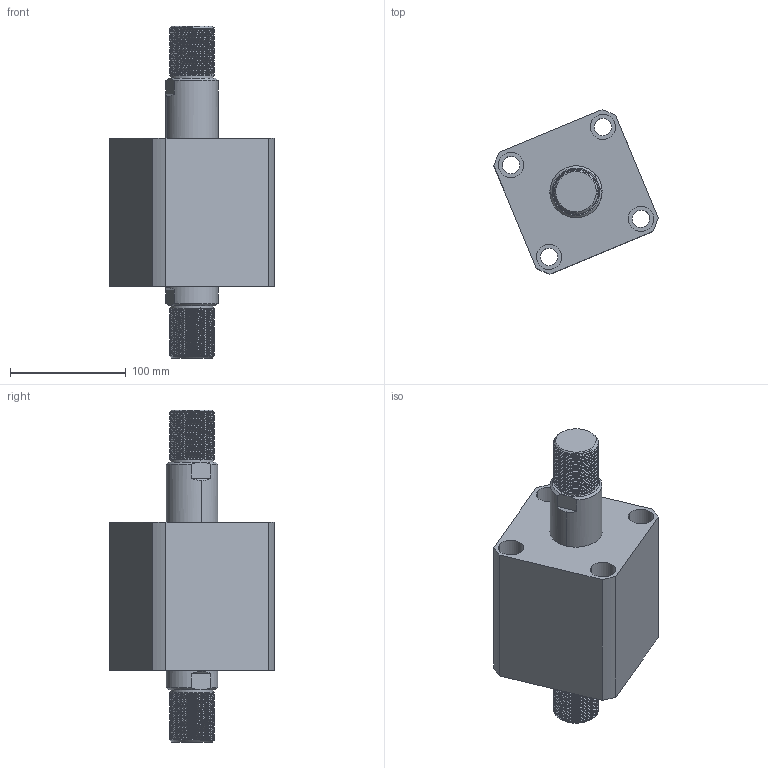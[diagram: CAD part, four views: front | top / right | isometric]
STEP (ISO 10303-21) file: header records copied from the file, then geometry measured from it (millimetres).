
FILE_DESCRIPTION (( 'STEP AP214' ), '1' );
FILE_NAME ('chtb-sw80x35w_asm.STEP', '2018-05-28T01:42:38', ( 'Windows' ), ( 'Microsoft' ), 'SwSTEP 2.0', 'SolidWorks 2015', '' );
FILE_SCHEMA (( 'AUTOMOTIVE_DESIGN' ));
Length unit declared in the file: millimetre
Products named in the file (4): CHTB-SW80X35WHSG; CHTB-SW80X35NBT; CHTB-SD80QG; chtb-sw80x35w_asm
Assembly tree (3 placements, depth 2):
  chtb-sw80x35w_asm
    CHTB-SD80QG
    CHTB-SW80X35NBT
    CHTB-SW80X35WHSG
Bounding box: 142.06 x 142.06 x 287 mm (x, y, z)
Volume: 1597273.1 mm3; surface area: 222541 mm2
Topology: 3 solids, 3 shells, 330 faces, 908 edges, 607 vertices
Faces by surface type: cylinder 221, plane 48, cone 25, bspline 18, torus 18
Entity records: 25864 total; most frequent: CARTESIAN_POINT 18238, ORIENTED_EDGE 1808, DIRECTION 1338, EDGE_CURVE 904, VERTEX_POINT 607, AXIS2_PLACEMENT_3D 532, EDGE_LOOP 373, FACE_OUTER_BOUND 330
